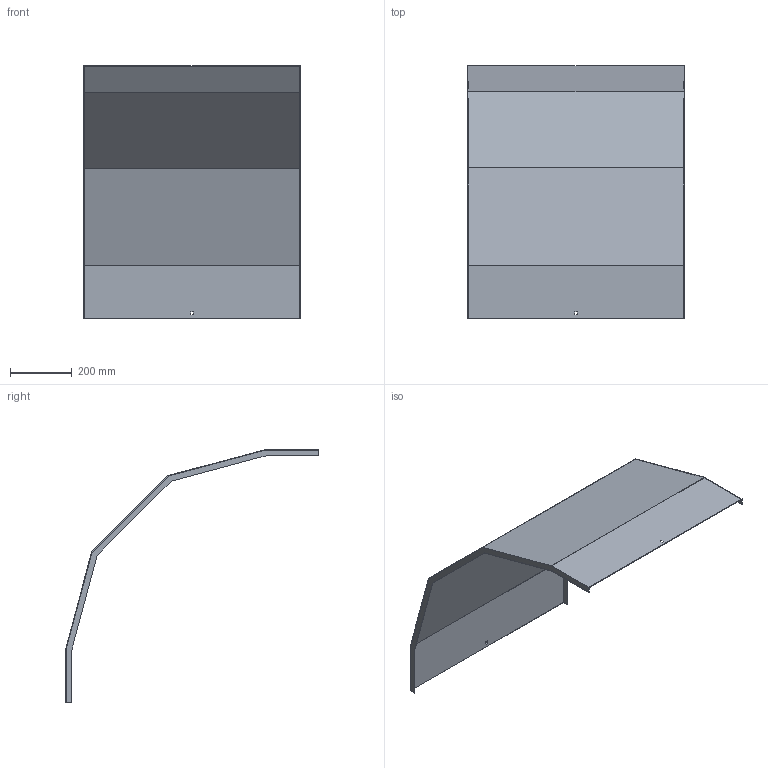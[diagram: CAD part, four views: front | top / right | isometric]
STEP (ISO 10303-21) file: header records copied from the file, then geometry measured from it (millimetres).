
FILE_DESCRIPTION (( 'STEP AP214' ), '1' );
FILE_NAME ('33N5F700.step', '2025-02-21T14:25:54', ( '' ), ( '' ), 'SwSTEP 2.0', 'SolidWorks 2023', '' );
FILE_SCHEMA (( 'AUTOMOTIVE_DESIGN' ));
Length unit declared in the file: millimetre
Products named in the file (1): 33N5F700
Bounding box: 703 x 820.4 x 820.4 mm (x, y, z)
Volume: 1494961.3 mm3; surface area: 1999549.4 mm2
Topology: 1 solids, 1 shells, 34 faces, 96 edges, 64 vertices
Faces by surface type: plane 34
Entity records: 1111 total; most frequent: CARTESIAN_POINT 195, ORIENTED_EDGE 192, DIRECTION 166, VECTOR 96, LINE 96, EDGE_CURVE 96, VERTEX_POINT 64, EDGE_LOOP 38
